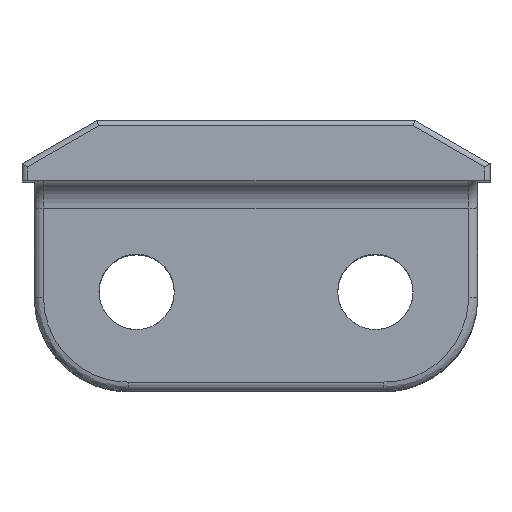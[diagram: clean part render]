
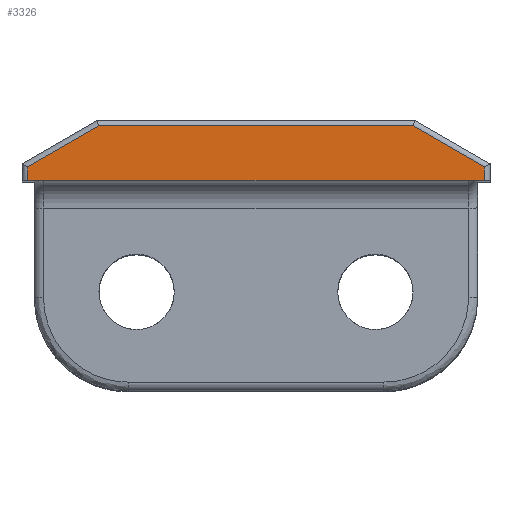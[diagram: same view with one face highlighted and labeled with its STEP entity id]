
A CAD part, top view. The second image highlights one B-rep face of the part: STEP entity #3326.
In plain terms, the highlighted planar face has unit normal (0, 0, 1).
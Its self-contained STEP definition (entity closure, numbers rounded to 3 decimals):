
#44=DIRECTION('',(1.,0.,0.));
#45=VECTOR('',#44,24.29);
#46=CARTESIAN_POINT('',(-12.145,11.18,25.4));
#47=LINE('',#46,#45);
#1296=DIRECTION('',(0.,-1.,0.));
#1297=VECTOR('',#1296,0.717);
#1298=CARTESIAN_POINT('',(12.145,11.897,25.4));
#1299=LINE('',#1298,#1297);
#1300=DIRECTION('',(0.,1.,0.));
#1301=VECTOR('',#1300,0.717);
#1302=CARTESIAN_POINT('',(-12.145,11.18,25.4));
#1303=LINE('',#1302,#1301);
#1304=DIRECTION('',(-0.866,-0.5,0.));
#1305=VECTOR('',#1304,4.365);
#1306=CARTESIAN_POINT('',(-8.365,14.08,25.4));
#1307=LINE('',#1306,#1305);
#1308=DIRECTION('',(-1.,0.,0.));
#1309=VECTOR('',#1308,16.729);
#1310=CARTESIAN_POINT('',(8.365,14.08,25.4));
#1311=LINE('',#1310,#1309);
#1312=DIRECTION('',(-0.866,0.5,0.));
#1313=VECTOR('',#1312,4.365);
#1314=CARTESIAN_POINT('',(12.145,11.897,25.4));
#1315=LINE('',#1314,#1313);
#1631=CARTESIAN_POINT('',(12.145,11.18,25.4));
#1633=VERTEX_POINT('',#1631);
#1634=CARTESIAN_POINT('',(12.145,11.897,25.4));
#1635=VERTEX_POINT('',#1634);
#1638=CARTESIAN_POINT('',(8.365,14.08,25.4));
#1639=VERTEX_POINT('',#1638);
#1644=CARTESIAN_POINT('',(-8.365,14.08,25.4));
#1645=VERTEX_POINT('',#1644);
#1648=CARTESIAN_POINT('',(-12.145,11.897,25.4));
#1649=VERTEX_POINT('',#1648);
#1650=CARTESIAN_POINT('',(-12.145,11.18,25.4));
#1652=VERTEX_POINT('',#1650);
#3311=CARTESIAN_POINT('',(-12.445,14.38,25.4));
#3312=DIRECTION('',(0.,0.,1.));
#3313=DIRECTION('',(0.,-1.,0.));
#3314=AXIS2_PLACEMENT_3D('',#3311,#3312,#3313);
#3315=PLANE('',#3314);
#3316=ORIENTED_EDGE('',*,*,#3303,.T.);
#3317=ORIENTED_EDGE('',*,*,#1694,.F.);
#3318=ORIENTED_EDGE('',*,*,#3204,.T.);
#3319=ORIENTED_EDGE('',*,*,#3218,.F.);
#3321=ORIENTED_EDGE('',*,*,#3320,.F.);
#3323=ORIENTED_EDGE('',*,*,#3322,.F.);
#3324=EDGE_LOOP('',(#3316,#3317,#3318,#3319,#3321,#3323));
#3325=FACE_OUTER_BOUND('',#3324,.F.);
#3326=ADVANCED_FACE('',(#3325),#3315,.T.);
#1694=EDGE_CURVE('',#1652,#1633,#47,.T.);
#3204=EDGE_CURVE('',#1652,#1649,#1303,.T.);
#3218=EDGE_CURVE('',#1645,#1649,#1307,.T.);
#3303=EDGE_CURVE('',#1635,#1633,#1299,.T.);
#3320=EDGE_CURVE('',#1639,#1645,#1311,.T.);
#3322=EDGE_CURVE('',#1635,#1639,#1315,.T.);
